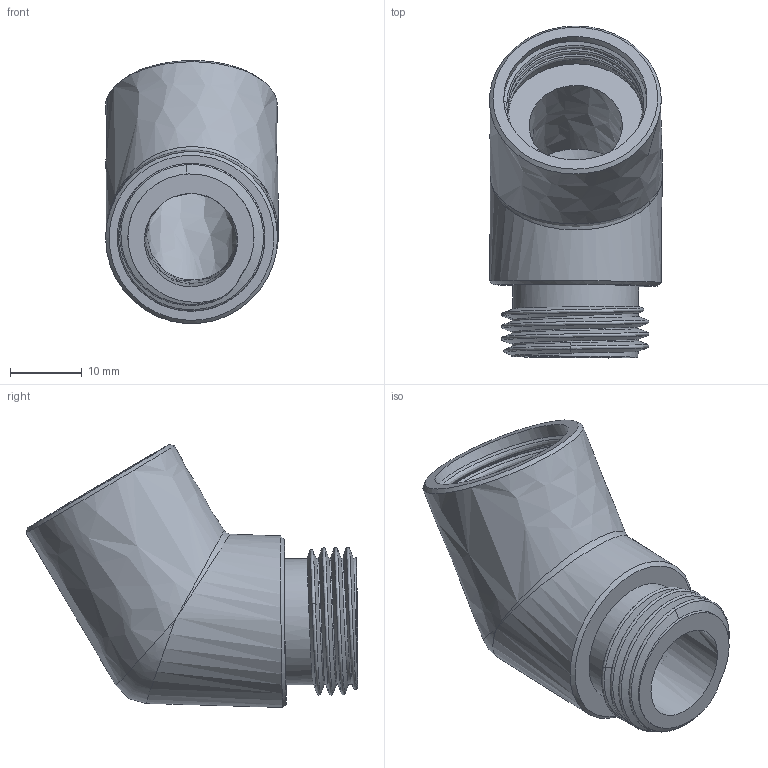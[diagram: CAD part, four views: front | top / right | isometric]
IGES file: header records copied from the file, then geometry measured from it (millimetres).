
Global section: file name: aefc81f2-342f-49a6-94aa-ac4f8e5eb897; native system: unknown; preprocessor: unknown; author: unknown; organization: unknown; date: 20191214.212023; units: millimetre
Bounding box: 24.12 x 46.31 x 36.71 mm (x, y, z)
Volume: 11814.1 mm3; surface area: 6533.6 mm2
Topology: 1 solids, 1 shells, 49 faces, 129 edges, 81 vertices
Faces by surface type: bspline 49
